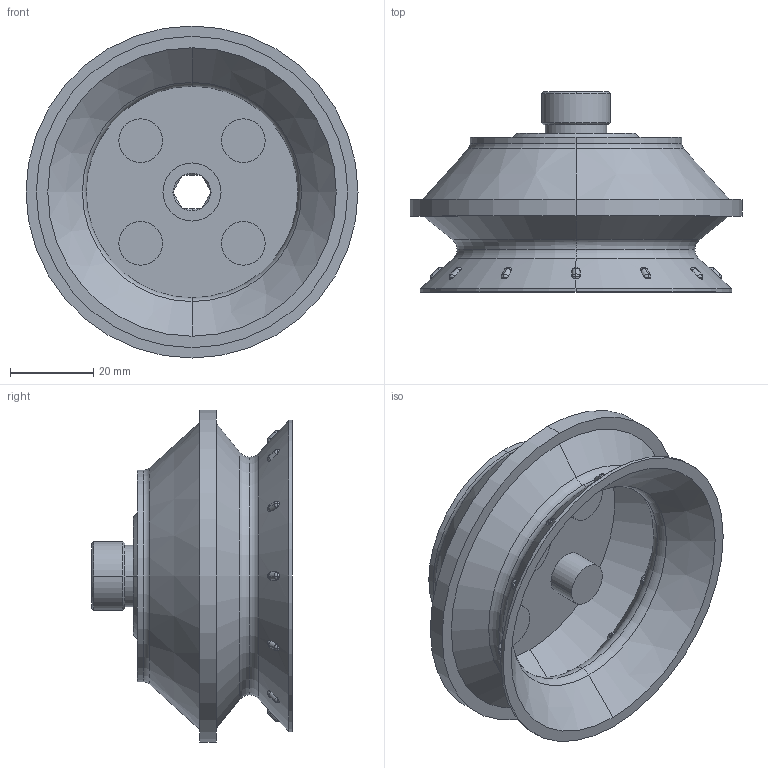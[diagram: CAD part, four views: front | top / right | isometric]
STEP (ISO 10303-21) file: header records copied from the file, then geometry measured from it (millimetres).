
FILE_DESCRIPTION (( 'STEP AP214' ), '1' );
FILE_NAME ('SB75P-3060-G38M.STEP', '2026-07-20T13:29:43', ( '' ), ( '' ), 'SwSTEP 2.0', 'SolidWorks 2025', '' );
FILE_SCHEMA (( 'AUTOMOTIVE_DESIGN' ));
Length unit declared in the file: millimetre
Products named in the file (1): SB75P-3060-G38M
Bounding box: 80 x 48.3 x 80 mm (x, y, z)
Volume: 45152.4 mm3; surface area: 30059.8 mm2
Topology: 2 solids, 2 shells, 307 faces, 690 edges, 426 vertices
Faces by surface type: sphere 144, cylinder 86, cone 38, plane 29, torus 10
Entity records: 11204 total; most frequent: CARTESIAN_POINT 4410, DIRECTION 1462, ORIENTED_EDGE 1380, EDGE_CURVE 690, AXIS2_PLACEMENT_3D 670, VERTEX_POINT 426, CIRCLE 362, EDGE_LOOP 350
